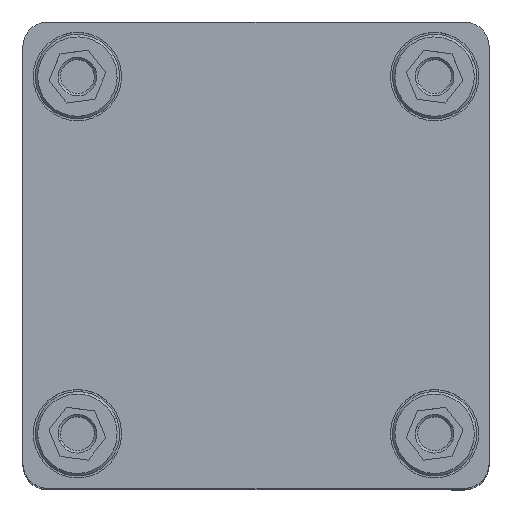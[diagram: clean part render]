
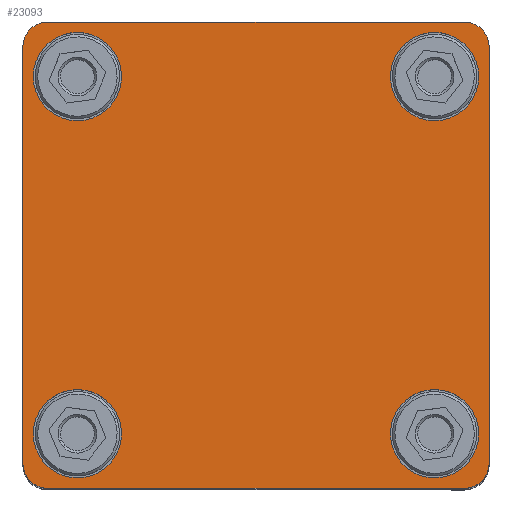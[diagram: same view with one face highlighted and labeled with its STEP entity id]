
A CAD part, top view. The second image highlights one B-rep face of the part: STEP entity #23093.
In plain terms, the highlighted planar face has unit normal (0, 0, 1) as drawn and (1, 0, 0) by its records, which use the part's own axes.
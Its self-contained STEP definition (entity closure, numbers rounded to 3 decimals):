
#12 = EDGE_CURVE ( 'NONE', #1681, #9076, #33149, .T. ) ;
#385 = ORIENTED_EDGE ( 'NONE', *, *, #12163, .T. ) ;
#400 = ORIENTED_EDGE ( 'NONE', *, *, #49496, .F. ) ;
#935 = VERTEX_POINT ( 'NONE', #34740 ) ;
#1280 = ORIENTED_EDGE ( 'NONE', *, *, #56985, .F. ) ;
#1681 = VERTEX_POINT ( 'NONE', #7625 ) ;
#2456 = DIRECTION ( 'NONE',  ( 0., 0., -1. ) ) ;
#3257 = CARTESIAN_POINT ( 'NONE',  ( 0., 36., 36. ) ) ;
#3571 = DIRECTION ( 'NONE',  ( 0., -1., 0. ) ) ;
#3625 = EDGE_CURVE ( 'NONE', #46026, #9076, #39163, .T. ) ;
#4696 = CIRCLE ( 'NONE', #7561, 8.9 ) ;
#4895 = LINE ( 'NONE', #55204, #20347 ) ;
#5179 = CIRCLE ( 'NONE', #54941, 8.9 ) ;
#5249 = VERTEX_POINT ( 'NONE', #33520 ) ;
#5627 = CARTESIAN_POINT ( 'NONE',  ( 0., -47., 47. ) ) ;
#5885 = CIRCLE ( 'NONE', #36393, 5. ) ;
#5988 = VERTEX_POINT ( 'NONE', #47822 ) ;
#6169 = CARTESIAN_POINT ( 'NONE',  ( 0., 0., 0. ) ) ;
#6330 = DIRECTION ( 'NONE',  ( 1., 0., 0. ) ) ;
#6404 = ORIENTED_EDGE ( 'NONE', *, *, #14435, .F. ) ;
#7012 = AXIS2_PLACEMENT_3D ( 'NONE', #39387, #30706, #12466 ) ;
#7299 = ORIENTED_EDGE ( 'NONE', *, *, #44390, .T. ) ;
#7561 = AXIS2_PLACEMENT_3D ( 'NONE', #15972, #33908, #2456 ) ;
#7625 = CARTESIAN_POINT ( 'NONE',  ( 0., -42., 47. ) ) ;
#7848 = FACE_BOUND ( 'NONE', #48991, .T. ) ;
#8077 = AXIS2_PLACEMENT_3D ( 'NONE', #19474, #6330, #11409 ) ;
#8326 = VECTOR ( 'NONE', #8466, 1000. ) ;
#8466 = DIRECTION ( 'NONE',  ( 0., 0., -1. ) ) ;
#8717 = CARTESIAN_POINT ( 'NONE',  ( 0., -42., -47. ) ) ;
#8806 = DIRECTION ( 'NONE',  ( 1., 0., 0. ) ) ;
#9076 = VERTEX_POINT ( 'NONE', #55717 ) ;
#9125 = EDGE_LOOP ( 'NONE', ( #41672, #29378 ) ) ;
#9300 = VERTEX_POINT ( 'NONE', #18731 ) ;
#9873 = CIRCLE ( 'NONE', #7012, 8.9 ) ;
#10034 = EDGE_CURVE ( 'NONE', #935, #5249, #36718, .T. ) ;
#10331 = CARTESIAN_POINT ( 'NONE',  ( 0., -36., 44.9 ) ) ;
#10960 = DIRECTION ( 'NONE',  ( 0., 0., -1. ) ) ;
#10975 = AXIS2_PLACEMENT_3D ( 'NONE', #25724, #15870, #57210 ) ;
#11409 = DIRECTION ( 'NONE',  ( 0., 0., -1. ) ) ;
#12163 = EDGE_CURVE ( 'NONE', #1681, #45135, #5885, .T. ) ;
#12300 = ORIENTED_EDGE ( 'NONE', *, *, #49634, .T. ) ;
#12344 = PLANE ( 'NONE',  #32456 ) ;
#12466 = DIRECTION ( 'NONE',  ( 0., 0., -1. ) ) ;
#14024 = CARTESIAN_POINT ( 'NONE',  ( 0., -36., 27.1 ) ) ;
#14435 = EDGE_CURVE ( 'NONE', #29951, #17205, #49086, .T. ) ;
#14510 = VERTEX_POINT ( 'NONE', #35870 ) ;
#15148 = CIRCLE ( 'NONE', #19913, 5. ) ;
#15415 = EDGE_CURVE ( 'NONE', #5249, #935, #9873, .T. ) ;
#15870 = DIRECTION ( 'NONE',  ( 1., 0., 0. ) ) ;
#15972 = CARTESIAN_POINT ( 'NONE',  ( 0., 36., -36. ) ) ;
#16497 = DIRECTION ( 'NONE',  ( 1., 0., 0. ) ) ;
#17205 = VERTEX_POINT ( 'NONE', #8717 ) ;
#17332 = CARTESIAN_POINT ( 'NONE',  ( 0., 36., -36. ) ) ;
#18249 = EDGE_LOOP ( 'NONE', ( #400, #32146 ) ) ;
#18533 = ORIENTED_EDGE ( 'NONE', *, *, #37580, .F. ) ;
#18731 = CARTESIAN_POINT ( 'NONE',  ( 0., 36., -44.9 ) ) ;
#18840 = VERTEX_POINT ( 'NONE', #37373 ) ;
#18995 = ORIENTED_EDGE ( 'NONE', *, *, #53330, .F. ) ;
#19474 = CARTESIAN_POINT ( 'NONE',  ( 0., -36., -36. ) ) ;
#19913 = AXIS2_PLACEMENT_3D ( 'NONE', #27499, #45778, #54765 ) ;
#20347 = VECTOR ( 'NONE', #27924, 1000. ) ;
#21309 = DIRECTION ( 'NONE',  ( 1., 0., 0. ) ) ;
#21521 = EDGE_CURVE ( 'NONE', #9300, #14510, #4696, .T. ) ;
#21704 = CIRCLE ( 'NONE', #34259, 8.9 ) ;
#21929 = LINE ( 'NONE', #54578, #8326 ) ;
#22213 = DIRECTION ( 'NONE',  ( 1., 0., 0. ) ) ;
#23093 = ADVANCED_FACE ( 'NONE', ( #47172, #7848, #53370, #48869, #41481 ), #12344, .T. ) ;
#23370 = CIRCLE ( 'NONE', #41532, 8.9 ) ;
#25724 = CARTESIAN_POINT ( 'NONE',  ( 0., -36., 36. ) ) ;
#25734 = DIRECTION ( 'NONE',  ( 0., 0., -1. ) ) ;
#26057 = CARTESIAN_POINT ( 'NONE',  ( 0., 42., -42. ) ) ;
#26400 = AXIS2_PLACEMENT_3D ( 'NONE', #26057, #44917, #30833 ) ;
#26409 = DIRECTION ( 'NONE',  ( 0., 0., -1. ) ) ;
#27499 = CARTESIAN_POINT ( 'NONE',  ( 0., -42., -42. ) ) ;
#27733 = CARTESIAN_POINT ( 'NONE',  ( 0., 42., 42. ) ) ;
#27924 = DIRECTION ( 'NONE',  ( 0., 0., 1. ) ) ;
#27975 = VECTOR ( 'NONE', #3571, 1000. ) ;
#28224 = CARTESIAN_POINT ( 'NONE',  ( 0., 36., 36. ) ) ;
#28355 = DIRECTION ( 'NONE',  ( 0., 1., 0. ) ) ;
#29378 = ORIENTED_EDGE ( 'NONE', *, *, #10034, .F. ) ;
#29951 = VERTEX_POINT ( 'NONE', #58546 ) ;
#30184 = ORIENTED_EDGE ( 'NONE', *, *, #56323, .F. ) ;
#30203 = CIRCLE ( 'NONE', #26400, 5. ) ;
#30255 = CARTESIAN_POINT ( 'NONE',  ( 0., -42., 42. ) ) ;
#30514 = DIRECTION ( 'NONE',  ( 1., 0., 0. ) ) ;
#30554 = DIRECTION ( 'NONE',  ( 0., 0., -1. ) ) ;
#30706 = DIRECTION ( 'NONE',  ( 1., 0., 0. ) ) ;
#30833 = DIRECTION ( 'NONE',  ( 0., 0., -1. ) ) ;
#30975 = CIRCLE ( 'NONE', #10975, 8.9 ) ;
#32146 = ORIENTED_EDGE ( 'NONE', *, *, #48973, .F. ) ;
#32456 = AXIS2_PLACEMENT_3D ( 'NONE', #6169, #21309, #10960 ) ;
#33149 = LINE ( 'NONE', #5627, #55696 ) ;
#33520 = CARTESIAN_POINT ( 'NONE',  ( 0., -36., -44.9 ) ) ;
#33908 = DIRECTION ( 'NONE',  ( 1., 0., 0. ) ) ;
#34259 = AXIS2_PLACEMENT_3D ( 'NONE', #3257, #34699, #35568 ) ;
#34699 = DIRECTION ( 'NONE',  ( 1., 0., 0. ) ) ;
#34740 = CARTESIAN_POINT ( 'NONE',  ( 0., -36., -27.1 ) ) ;
#35085 = CARTESIAN_POINT ( 'NONE',  ( 0., -36., 36. ) ) ;
#35122 = CARTESIAN_POINT ( 'NONE',  ( 0., -47., 42. ) ) ;
#35344 = AXIS2_PLACEMENT_3D ( 'NONE', #27733, #41493, #41200 ) ;
#35466 = ORIENTED_EDGE ( 'NONE', *, *, #56212, .F. ) ;
#35568 = DIRECTION ( 'NONE',  ( 0., 0., -1. ) ) ;
#35870 = CARTESIAN_POINT ( 'NONE',  ( 0., 36., -27.1 ) ) ;
#36062 = EDGE_LOOP ( 'NONE', ( #50170, #385, #18995, #12300, #6404, #7299, #18533, #51282 ) ) ;
#36393 = AXIS2_PLACEMENT_3D ( 'NONE', #30255, #16497, #30554 ) ;
#36718 = CIRCLE ( 'NONE', #8077, 8.9 ) ;
#37373 = CARTESIAN_POINT ( 'NONE',  ( 0., 47., -42. ) ) ;
#37580 = EDGE_CURVE ( 'NONE', #46026, #18840, #21929, .T. ) ;
#39163 = CIRCLE ( 'NONE', #35344, 5. ) ;
#39387 = CARTESIAN_POINT ( 'NONE',  ( 0., -36., -36. ) ) ;
#41106 = DIRECTION ( 'NONE',  ( 0., 0., -1. ) ) ;
#41200 = DIRECTION ( 'NONE',  ( 0., 0., -1. ) ) ;
#41481 = FACE_OUTER_BOUND ( 'NONE', #36062, .T. ) ;
#41493 = DIRECTION ( 'NONE',  ( 1., 0., 0. ) ) ;
#41532 = AXIS2_PLACEMENT_3D ( 'NONE', #17332, #30514, #25734 ) ;
#41672 = ORIENTED_EDGE ( 'NONE', *, *, #15415, .F. ) ;
#42302 = VERTEX_POINT ( 'NONE', #14024 ) ;
#43478 = CARTESIAN_POINT ( 'NONE',  ( 0., 47., 42. ) ) ;
#44390 = EDGE_CURVE ( 'NONE', #29951, #18840, #30203, .T. ) ;
#44917 = DIRECTION ( 'NONE',  ( 1., 0., 0. ) ) ;
#45135 = VERTEX_POINT ( 'NONE', #35122 ) ;
#45778 = DIRECTION ( 'NONE',  ( 1., 0., 0. ) ) ;
#46026 = VERTEX_POINT ( 'NONE', #43478 ) ;
#47172 = FACE_BOUND ( 'NONE', #9125, .T. ) ;
#47822 = CARTESIAN_POINT ( 'NONE',  ( 0., 36., 27.1 ) ) ;
#48869 = FACE_BOUND ( 'NONE', #18249, .T. ) ;
#48973 = EDGE_CURVE ( 'NONE', #54664, #5988, #54348, .T. ) ;
#48991 = EDGE_LOOP ( 'NONE', ( #30184, #35466 ) ) ;
#49086 = LINE ( 'NONE', #54766, #27975 ) ;
#49496 = EDGE_CURVE ( 'NONE', #5988, #54664, #21704, .T. ) ;
#49634 = EDGE_CURVE ( 'NONE', #55984, #17205, #15148, .T. ) ;
#50170 = ORIENTED_EDGE ( 'NONE', *, *, #12, .F. ) ;
#50477 = ORIENTED_EDGE ( 'NONE', *, *, #21521, .F. ) ;
#51282 = ORIENTED_EDGE ( 'NONE', *, *, #3625, .T. ) ;
#51940 = VERTEX_POINT ( 'NONE', #10331 ) ;
#53330 = EDGE_CURVE ( 'NONE', #55984, #45135, #4895, .T. ) ;
#53370 = FACE_BOUND ( 'NONE', #54080, .T. ) ;
#54080 = EDGE_LOOP ( 'NONE', ( #50477, #1280 ) ) ;
#54348 = CIRCLE ( 'NONE', #56239, 8.9 ) ;
#54578 = CARTESIAN_POINT ( 'NONE',  ( 0., 47., -47. ) ) ;
#54623 = CARTESIAN_POINT ( 'NONE',  ( 0., 36., 44.9 ) ) ;
#54664 = VERTEX_POINT ( 'NONE', #54623 ) ;
#54765 = DIRECTION ( 'NONE',  ( 0., 0., -1. ) ) ;
#54766 = CARTESIAN_POINT ( 'NONE',  ( 0., -47., -47. ) ) ;
#54941 = AXIS2_PLACEMENT_3D ( 'NONE', #35085, #22213, #26409 ) ;
#55204 = CARTESIAN_POINT ( 'NONE',  ( 0., -47., -47. ) ) ;
#55696 = VECTOR ( 'NONE', #28355, 1000. ) ;
#55717 = CARTESIAN_POINT ( 'NONE',  ( 0., 42., 47. ) ) ;
#55984 = VERTEX_POINT ( 'NONE', #57309 ) ;
#56212 = EDGE_CURVE ( 'NONE', #51940, #42302, #5179, .T. ) ;
#56239 = AXIS2_PLACEMENT_3D ( 'NONE', #28224, #8806, #41106 ) ;
#56323 = EDGE_CURVE ( 'NONE', #42302, #51940, #30975, .T. ) ;
#56985 = EDGE_CURVE ( 'NONE', #14510, #9300, #23370, .T. ) ;
#57210 = DIRECTION ( 'NONE',  ( 0., 0., -1. ) ) ;
#57309 = CARTESIAN_POINT ( 'NONE',  ( 0., -47., -42. ) ) ;
#58546 = CARTESIAN_POINT ( 'NONE',  ( 0., 42., -47. ) ) ;
